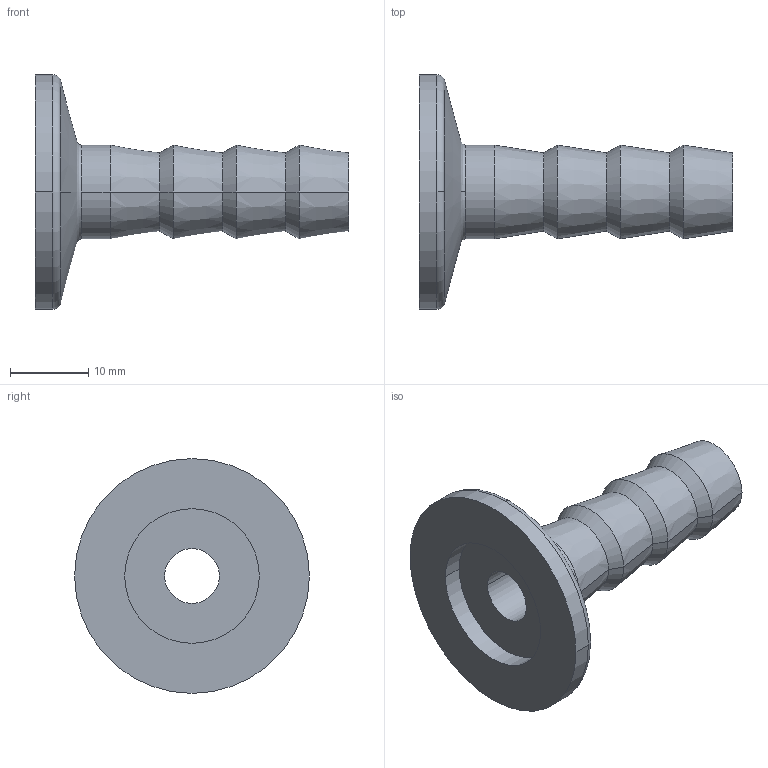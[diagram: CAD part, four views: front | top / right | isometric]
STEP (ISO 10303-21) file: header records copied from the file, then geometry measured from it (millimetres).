
FILE_DESCRIPTION((''),'2;1');
FILE_NAME('W:\211-392.stp','2003-10-10T16:29:35',('KAA'),(''),'Autodesk Inventor (R) 6.0','Autodesk Inventor (R) 6.0','');
FILE_SCHEMA(('CONFIG_CONTROL_DESIGN'));
Length unit declared in the file: millimetre
Products named in the file (1): 211-392
Bounding box: 40 x 30 x 30 mm (x, y, z)
Volume: 4343.7 mm3; surface area: 3786 mm2
Topology: 1 solids, 1 shells, 31 faces, 70 edges, 42 vertices
Faces by surface type: cone 16, cylinder 8, plane 3, torus 2, bspline 2
Entity records: 1057 total; most frequent: CARTESIAN_POINT 232, DIRECTION 176, ORIENTED_EDGE 140, AXIS2_PLACEMENT_3D 76, EDGE_CURVE 70, CIRCLE 46, VERTEX_POINT 42, EDGE_LOOP 34
